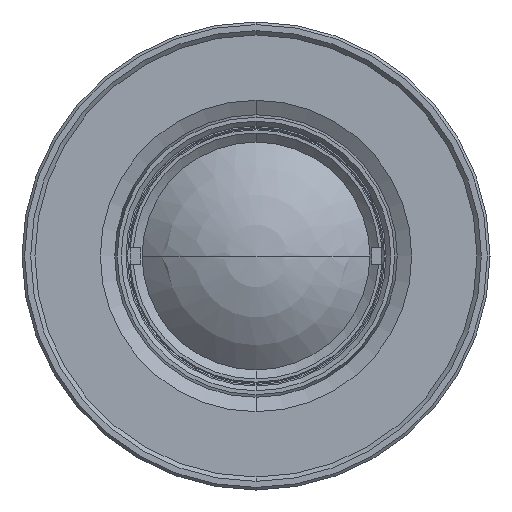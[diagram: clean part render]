
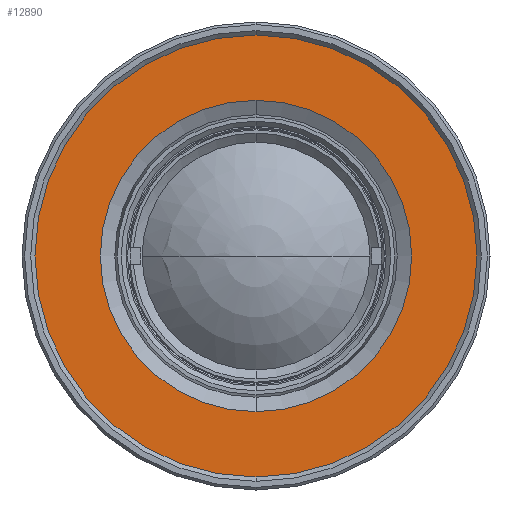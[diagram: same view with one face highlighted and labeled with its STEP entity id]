
A CAD part, left-side view. The second image highlights one B-rep face of the part: STEP entity #12890.
In plain terms, the highlighted planar face has unit normal (-1, 0, 0) as drawn and (0, 0, 1) by its records, which use the part's own axes.
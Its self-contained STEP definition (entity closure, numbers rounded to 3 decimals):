
#2450=CARTESIAN_POINT('',(-17.963,0.,80.596));
#2460=VERTEX_POINT('',#2450);
#2490=CARTESIAN_POINT('',(0.,0.,
80.596));
#2500=DIRECTION('',(-0.,-0.,-1.));
#2510=DIRECTION('',(1.,0.,0.));
#2520=AXIS2_PLACEMENT_3D('',#2490,#2500,#2510);
#2530=CIRCLE('',#2520,17.963);
#2540=CARTESIAN_POINT('',(17.963,0.,80.596));
#2550=VERTEX_POINT('',#2540);
#2560=EDGE_CURVE('',#2460,#2550,#2530,.T.);
#4690=CARTESIAN_POINT('',(-26.1,0.,80.596));
#4700=VERTEX_POINT('',#4690);
#4730=CARTESIAN_POINT('',(0.,0.,
80.596));
#4740=DIRECTION('',(-0.,-0.,1.));
#4750=DIRECTION('',(-1.,0.,-0.));
#4760=AXIS2_PLACEMENT_3D('',#4730,#4740,#4750);
#4770=CIRCLE('',#4760,26.1);
#4780=CARTESIAN_POINT('',(26.1,0.,80.596));
#4790=VERTEX_POINT('',#4780);
#4800=EDGE_CURVE('',#4700,#4790,#4770,.T.);
#12740=CARTESIAN_POINT('',(-26.413,-26.413,80.596));
#12750=DIRECTION('',(0.,0.,1.));
#12760=DIRECTION('',(1.,0.,-0.));
#12770=AXIS2_PLACEMENT_3D('',#12740,#12750,#12760);
#12780=PLANE('',#12770);
#12790=EDGE_CURVE('',#4790,#4700,#4770,.T.);
#12800=ORIENTED_EDGE('',*,*,#12790,.T.);
#12810=ORIENTED_EDGE('',*,*,#4800,.T.);
#12820=EDGE_LOOP('',(#12810,#12800));
#12830=FACE_OUTER_BOUND('',#12820,.T.);
#12840=ORIENTED_EDGE('',*,*,#2560,.T.);
#12850=EDGE_CURVE('',#2550,#2460,#2530,.T.);
#12860=ORIENTED_EDGE('',*,*,#12850,.T.);
#12870=EDGE_LOOP('',(#12860,#12840));
#12880=FACE_BOUND('',#12870,.T.);
#12890=ADVANCED_FACE('',(#12830,#12880),#12780,.T.);
